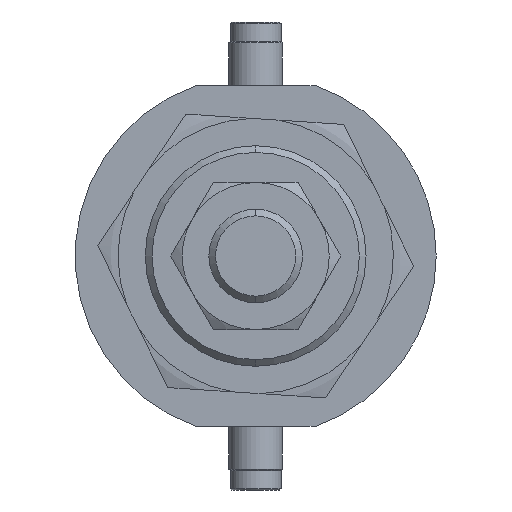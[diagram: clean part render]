
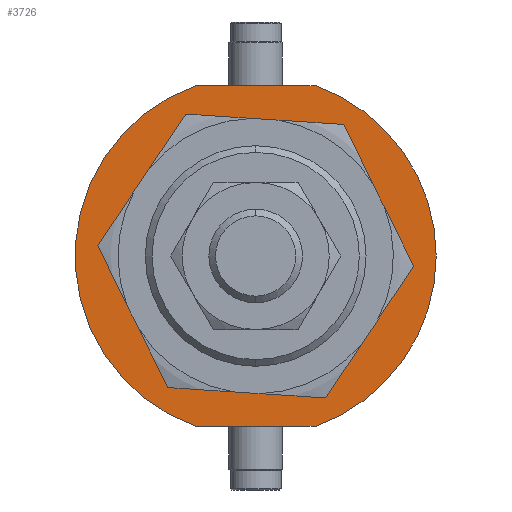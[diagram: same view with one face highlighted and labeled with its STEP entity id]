
A CAD part, left-side view. The second image highlights one B-rep face of the part: STEP entity #3726.
In plain terms, the highlighted planar face has unit normal (-1, 0, 0) as drawn and (0, 1, 0) by its records, which use the part's own axes.
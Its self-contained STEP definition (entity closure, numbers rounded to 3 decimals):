
#11 = AXIS2_PLACEMENT_3D ( 'NONE', #3362, #2675, #744 ) ;
#57 = CARTESIAN_POINT ( 'NONE',  ( 0., 4.5, 0. ) ) ;
#180 = DIRECTION ( 'NONE',  ( 0., 0., 1. ) ) ;
#182 = AXIS2_PLACEMENT_3D ( 'NONE', #57, #978, #1669 ) ;
#196 = VERTEX_POINT ( 'NONE', #1878 ) ;
#225 = VERTEX_POINT ( 'NONE', #1724 ) ;
#330 = PLANE ( 'NONE',  #3346 ) ;
#331 = EDGE_CURVE ( 'NONE', #196, #3798, #1643, .T. ) ;
#358 = CARTESIAN_POINT ( 'NONE',  ( -25.5, 4.5, 8.874 ) ) ;
#596 = VECTOR ( 'NONE', #1784, 1000. ) ;
#626 = CARTESIAN_POINT ( 'NONE',  ( 0., 4.5, 0. ) ) ;
#650 = VERTEX_POINT ( 'NONE', #358 ) ;
#658 = DIRECTION ( 'NONE',  ( 0., 1., 0. ) ) ;
#675 = ORIENTED_EDGE ( 'NONE', *, *, #1185, .F. ) ;
#744 = DIRECTION ( 'NONE',  ( 0., 0., 1. ) ) ;
#796 = ORIENTED_EDGE ( 'NONE', *, *, #1803, .T. ) ;
#812 = ORIENTED_EDGE ( 'NONE', *, *, #3818, .T. ) ;
#857 = EDGE_CURVE ( 'NONE', #1938, #650, #1635, .T. ) ;
#969 = CARTESIAN_POINT ( 'NONE',  ( 0., 4.5, 0. ) ) ;
#972 = DIRECTION ( 'NONE',  ( 0., 0., 1. ) ) ;
#978 = DIRECTION ( 'NONE',  ( 0., 1., 0. ) ) ;
#1185 = EDGE_CURVE ( 'NONE', #225, #3585, #3745, .T. ) ;
#1189 = ORIENTED_EDGE ( 'NONE', *, *, #2844, .T. ) ;
#1283 = VECTOR ( 'NONE', #180, 1000. ) ;
#1553 = CIRCLE ( 'NONE', #182, 16.5 ) ;
#1635 = LINE ( 'NONE', #2105, #1283 ) ;
#1643 = LINE ( 'NONE', #3038, #596 ) ;
#1669 = DIRECTION ( 'NONE',  ( 0., 0., 1. ) ) ;
#1724 = CARTESIAN_POINT ( 'NONE',  ( 0., 4.5, -16.5 ) ) ;
#1784 = DIRECTION ( 'NONE',  ( 0., 0., -1. ) ) ;
#1803 = EDGE_CURVE ( 'NONE', #650, #3771, #3387, .T. ) ;
#1867 = DIRECTION ( 'NONE',  ( 0., 0., 1. ) ) ;
#1878 = CARTESIAN_POINT ( 'NONE',  ( 25.5, 4.5, 8.874 ) ) ;
#1938 = VERTEX_POINT ( 'NONE', #3194 ) ;
#2067 = CIRCLE ( 'NONE', #3752, 27. ) ;
#2105 = CARTESIAN_POINT ( 'NONE',  ( -25.5, 4.5, -8.874 ) ) ;
#2231 = FACE_BOUND ( 'NONE', #2801, .T. ) ;
#2307 = CARTESIAN_POINT ( 'NONE',  ( 0., 4.5, 16.5 ) ) ;
#2496 = CARTESIAN_POINT ( 'NONE',  ( 0., 4.5, 0. ) ) ;
#2514 = DIRECTION ( 'NONE',  ( 0., 0., 1. ) ) ;
#2522 = AXIS2_PLACEMENT_3D ( 'NONE', #969, #658, #2909 ) ;
#2541 = CARTESIAN_POINT ( 'NONE',  ( 25.5, 4.5, -8.874 ) ) ;
#2575 = CARTESIAN_POINT ( 'NONE',  ( 0., 4.5, 0. ) ) ;
#2588 = AXIS2_PLACEMENT_3D ( 'NONE', #626, #3830, #2514 ) ;
#2675 = DIRECTION ( 'NONE',  ( 0., 1., 0. ) ) ;
#2766 = ORIENTED_EDGE ( 'NONE', *, *, #857, .T. ) ;
#2801 = EDGE_LOOP ( 'NONE', ( #2916, #675 ) ) ;
#2844 = EDGE_CURVE ( 'NONE', #3771, #196, #2979, .T. ) ;
#2909 = DIRECTION ( 'NONE',  ( 0., 0., 1. ) ) ;
#2916 = ORIENTED_EDGE ( 'NONE', *, *, #4114, .F. ) ;
#2979 = CIRCLE ( 'NONE', #2522, 27. ) ;
#3038 = CARTESIAN_POINT ( 'NONE',  ( 25.5, 4.5, -8.874 ) ) ;
#3097 = EDGE_LOOP ( 'NONE', ( #812, #2766, #796, #1189, #3370 ) ) ;
#3194 = CARTESIAN_POINT ( 'NONE',  ( -25.5, 4.5, -8.874 ) ) ;
#3214 = DIRECTION ( 'NONE',  ( 0., 1., 0. ) ) ;
#3346 = AXIS2_PLACEMENT_3D ( 'NONE', #2575, #3214, #972 ) ;
#3362 = CARTESIAN_POINT ( 'NONE',  ( 0., 4.5, 0. ) ) ;
#3370 = ORIENTED_EDGE ( 'NONE', *, *, #331, .T. ) ;
#3387 = CIRCLE ( 'NONE', #2588, 27. ) ;
#3486 = CARTESIAN_POINT ( 'NONE',  ( 0., 4.5, 27. ) ) ;
#3585 = VERTEX_POINT ( 'NONE', #2307 ) ;
#3726 = ADVANCED_FACE ( 'NONE', ( #2231, #4109 ), #330, .T. ) ;
#3745 = CIRCLE ( 'NONE', #11, 16.5 ) ;
#3752 = AXIS2_PLACEMENT_3D ( 'NONE', #2496, #3773, #1867 ) ;
#3771 = VERTEX_POINT ( 'NONE', #3486 ) ;
#3773 = DIRECTION ( 'NONE',  ( 0., 1., 0. ) ) ;
#3798 = VERTEX_POINT ( 'NONE', #2541 ) ;
#3818 = EDGE_CURVE ( 'NONE', #3798, #1938, #2067, .T. ) ;
#3830 = DIRECTION ( 'NONE',  ( 0., 1., 0. ) ) ;
#4109 = FACE_OUTER_BOUND ( 'NONE', #3097, .T. ) ;
#4114 = EDGE_CURVE ( 'NONE', #3585, #225, #1553, .T. ) ;
